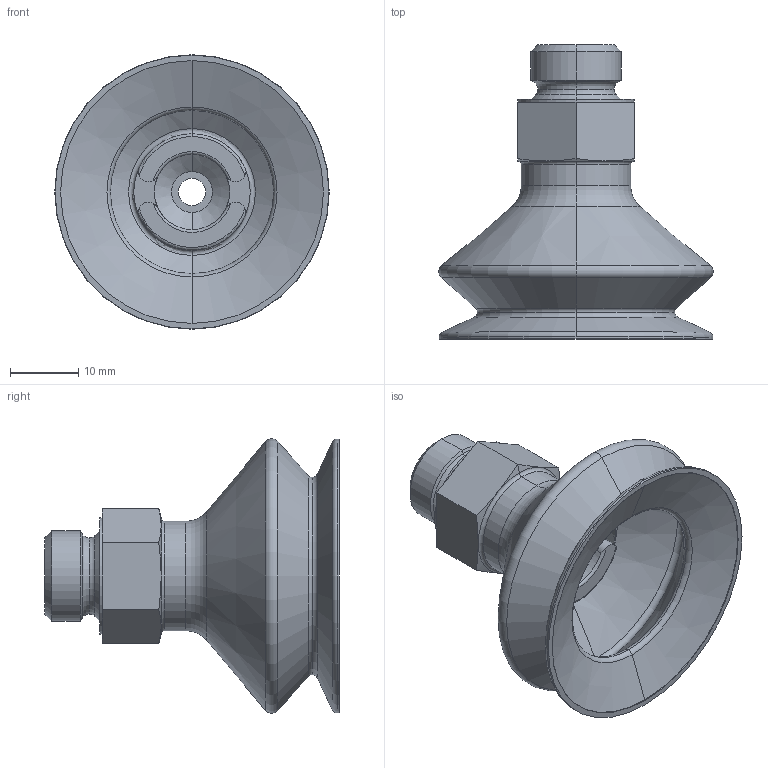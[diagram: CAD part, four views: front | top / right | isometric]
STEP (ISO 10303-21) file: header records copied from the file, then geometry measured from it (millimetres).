
FILE_DESCRIPTION (( 'STEP AP203' ), '1' );
FILE_NAME ('ZASB-40-1_4-SI.STEP', '2022-03-14T18:00:19', ( '' ), ( '' ), 'SwSTEP 2.0', 'SolidWorks 2019', '' );
FILE_SCHEMA (( 'CONFIG_CONTROL_DESIGN' ));
Length unit declared in the file: millimetre
Products named in the file (1): ZASB-40-1_4-SI
Bounding box: 40.08 x 43 x 40.08 mm (x, y, z)
Volume: 10692.6 mm3; surface area: 7800.1 mm2
Topology: 1 solids, 1 shells, 104 faces, 231 edges, 131 vertices
Faces by surface type: torus 30, cylinder 27, cone 27, plane 20
Entity records: 3005 total; most frequent: CARTESIAN_POINT 567, DIRECTION 562, ORIENTED_EDGE 462, AXIS2_PLACEMENT_3D 246, EDGE_CURVE 231, CIRCLE 141, VERTEX_POINT 131, EDGE_LOOP 108
